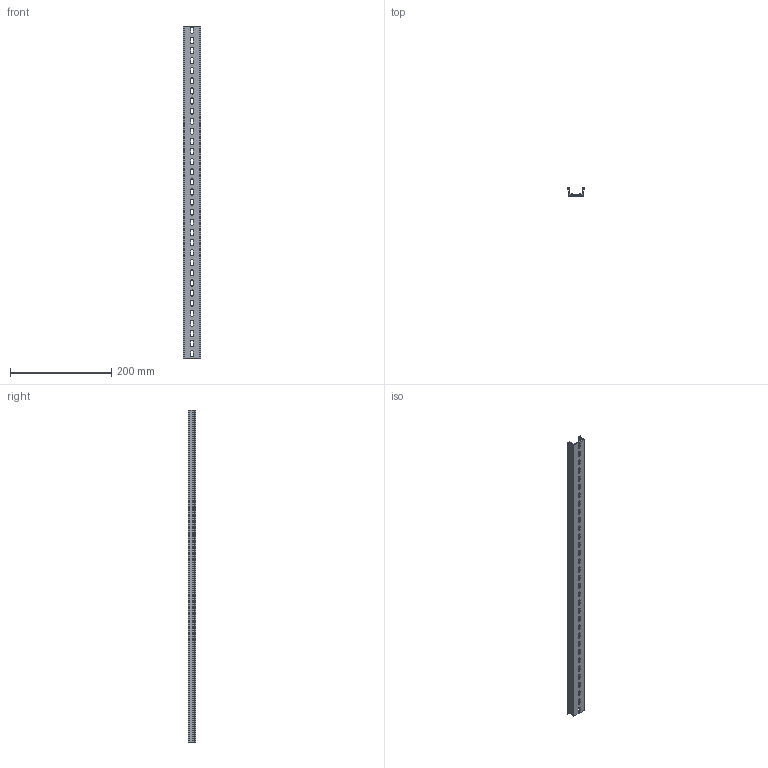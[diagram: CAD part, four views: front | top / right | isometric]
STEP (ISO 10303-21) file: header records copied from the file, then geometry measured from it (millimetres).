
FILE_DESCRIPTION(/* description */ (''),/* implementation_level */ '2;1');
FILE_NAME(/* name */ '22649-(TKB KD-33)HP 3D.stp',/* time_stamp */ '2024-12-05T14:11:57+09:00',/* author */ ('usercadg104'),/* organization */ (''),/* preprocessor_version */ 'ST-DEVELOPER v19.2',/* originating_system */ 'Autodesk Inventor 2023',/* authorisation */ '');
FILE_SCHEMA (('CONFIG_CONTROL_DESIGN'));
Length unit declared in the file: millimetre
Products named in the file (1): TKB KD-3(林)
Bounding box: 35 x 15 x 657 mm (x, y, z)
Volume: 76865.2 mm3; surface area: 88801.3 mm2
Topology: 1 solids, 1 shells, 172 faces, 510 edges, 340 vertices
Faces by surface type: plane 102, cylinder 70
Entity records: 5949 total; most frequent: CARTESIAN_POINT 1023, ORIENTED_EDGE 1020, DIRECTION 996, EDGE_CURVE 510, LINE 370, VECTOR 370, VERTEX_POINT 340, AXIS2_PLACEMENT_3D 313
